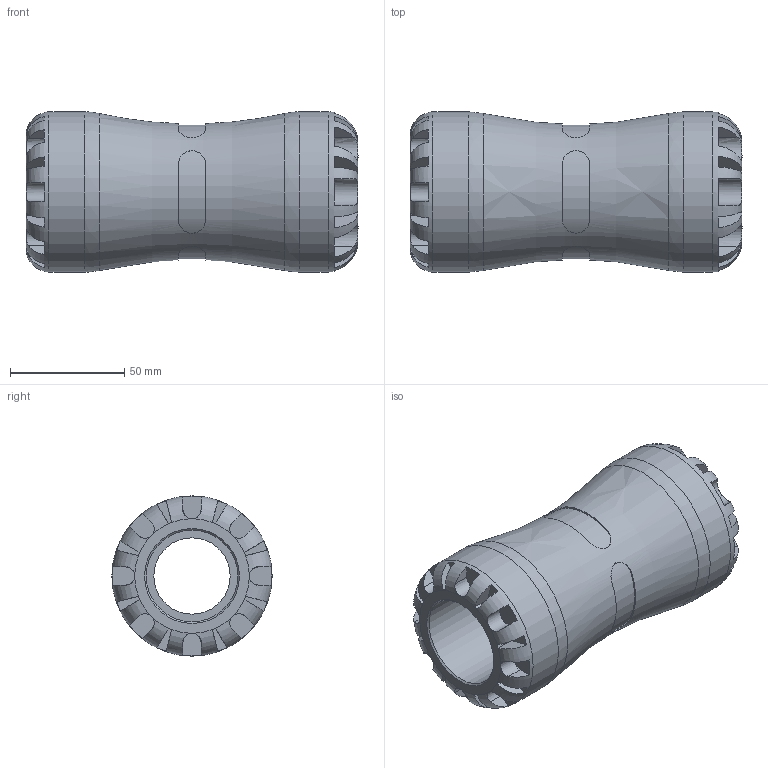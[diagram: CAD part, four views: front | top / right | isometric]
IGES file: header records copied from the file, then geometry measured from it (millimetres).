
Global section: file name: 1001Q0040_1901Q0040.ipt; native system: Autodesk Inventor 2015; preprocessor: unknown; author: KIM; date: 20170122.104542; units: millimetre
Bounding box: 145 x 70 x 70 mm (x, y, z)
Volume: 285670.7 mm3; surface area: 57074.9 mm2
Topology: 1 solids, 1 shells, 164 faces, 427 edges, 270 vertices
Faces by surface type: plane 108, revolution 34, cylinder 22
Full cylindrical faces by diameter (mm): 70 x2
